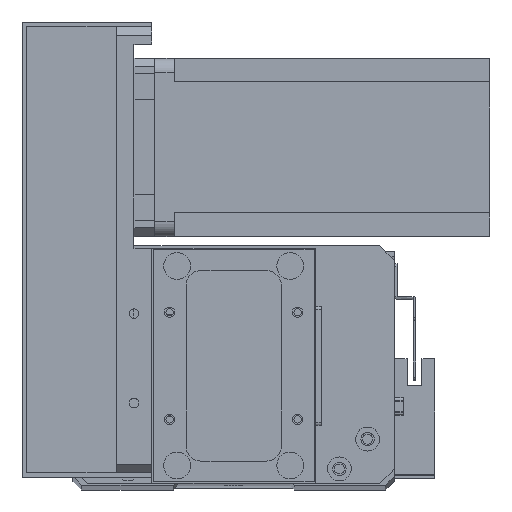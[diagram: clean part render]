
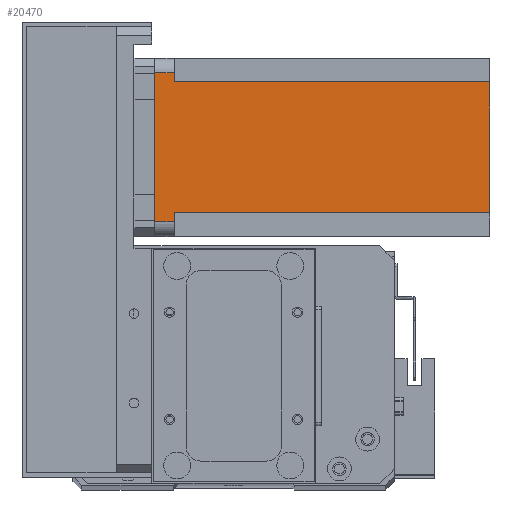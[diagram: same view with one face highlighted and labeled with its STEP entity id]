
A CAD part, top view. The second image highlights one B-rep face of the part: STEP entity #20470.
In plain terms, the highlighted planar face has unit normal (0, 0, 1) as drawn and (0, -1, 0) by its records, which use the part's own axes.
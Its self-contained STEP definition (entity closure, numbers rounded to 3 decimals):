
#39 = DIRECTION ( 'NONE',  ( 1., 0., 0. ) ) ;
#118 = CARTESIAN_POINT ( 'NONE',  ( 55., 0., -112.5 ) ) ;
#567 = CARTESIAN_POINT ( 'NONE',  ( 52., 0., -6.5 ) ) ;
#747 = ORIENTED_EDGE ( 'NONE', *, *, #26672, .T. ) ;
#1100 = ORIENTED_EDGE ( 'NONE', *, *, #27518, .T. ) ;
#1341 = DIRECTION ( 'NONE',  ( 0., -1., 0. ) ) ;
#1445 = DIRECTION ( 'NONE',  ( 0., 0., -1. ) ) ;
#2717 = LINE ( 'NONE', #6301, #19571 ) ;
#3070 = VECTOR ( 'NONE', #39, 1000. ) ;
#3404 = VECTOR ( 'NONE', #28408, 1000. ) ;
#4921 = ORIENTED_EDGE ( 'NONE', *, *, #27119, .F. ) ;
#5174 = ORIENTED_EDGE ( 'NONE', *, *, #25999, .T. ) ;
#5253 = LINE ( 'NONE', #13792, #28242 ) ;
#5990 = LINE ( 'NONE', #10662, #18184 ) ;
#6134 = DIRECTION ( 'NONE',  ( 0., 0., -1. ) ) ;
#6301 = CARTESIAN_POINT ( 'NONE',  ( 5., 0., -112.5 ) ) ;
#6789 = VERTEX_POINT ( 'NONE', #14095 ) ;
#7649 = DIRECTION ( 'NONE',  ( 1., 0., 0. ) ) ;
#8401 = VECTOR ( 'NONE', #10183, 1000. ) ;
#9158 = CARTESIAN_POINT ( 'NONE',  ( 52., 0., -6.5 ) ) ;
#9264 = LINE ( 'NONE', #23035, #3070 ) ;
#9975 = VERTEX_POINT ( 'NONE', #10482 ) ;
#10183 = DIRECTION ( 'NONE',  ( 1., 0., 0. ) ) ;
#10315 = ORIENTED_EDGE ( 'NONE', *, *, #16404, .F. ) ;
#10482 = CARTESIAN_POINT ( 'NONE',  ( 8., 0., -112.5 ) ) ;
#10662 = CARTESIAN_POINT ( 'NONE',  ( 52., 0., -112.5 ) ) ;
#11472 = LINE ( 'NONE', #118, #29034 ) ;
#12391 = CARTESIAN_POINT ( 'NONE',  ( 8., 0., -6.5 ) ) ;
#13792 = CARTESIAN_POINT ( 'NONE',  ( 8., 0., -112.5 ) ) ;
#13801 = ORIENTED_EDGE ( 'NONE', *, *, #27817, .F. ) ;
#14095 = CARTESIAN_POINT ( 'NONE',  ( 8., 0., -6.5 ) ) ;
#15186 = LINE ( 'NONE', #23884, #8401 ) ;
#15208 = CARTESIAN_POINT ( 'NONE',  ( 0., 0., -112.5 ) ) ;
#15235 = EDGE_LOOP ( 'NONE', ( #5174, #21633, #10315, #747, #4921, #17682, #1100, #13801 ) ) ;
#15354 = FACE_OUTER_BOUND ( 'NONE', #15235, .T. ) ;
#15968 = CARTESIAN_POINT ( 'NONE',  ( 5., 0., -6.5 ) ) ;
#16146 = LINE ( 'NONE', #567, #21410 ) ;
#16404 = EDGE_CURVE ( 'NONE', #19517, #20342, #15186, .T. ) ;
#17100 = LINE ( 'NONE', #12391, #3404 ) ;
#17492 = DIRECTION ( 'NONE',  ( 0., 0., -1. ) ) ;
#17682 = ORIENTED_EDGE ( 'NONE', *, *, #27474, .F. ) ;
#17902 = VERTEX_POINT ( 'NONE', #17922 ) ;
#17922 = CARTESIAN_POINT ( 'NONE',  ( 55., 0., -6.5 ) ) ;
#18184 = VECTOR ( 'NONE', #6134, 1000. ) ;
#18355 = DIRECTION ( 'NONE',  ( 0., 0., 1. ) ) ;
#18604 = DIRECTION ( 'NONE',  ( 0., 0., 1. ) ) ;
#19517 = VERTEX_POINT ( 'NONE', #20766 ) ;
#19571 = VECTOR ( 'NONE', #1445, 1000. ) ;
#20336 = CARTESIAN_POINT ( 'NONE',  ( 52., 0., -112.5 ) ) ;
#20342 = VERTEX_POINT ( 'NONE', #23985 ) ;
#20470 = ADVANCED_FACE ( 'NONE', ( #15354 ), #28847, .T. ) ;
#20766 = CARTESIAN_POINT ( 'NONE',  ( 5., 0., 0. ) ) ;
#21410 = VECTOR ( 'NONE', #7649, 1000. ) ;
#21633 = ORIENTED_EDGE ( 'NONE', *, *, #26358, .T. ) ;
#23035 = CARTESIAN_POINT ( 'NONE',  ( 0., 0., -112.5 ) ) ;
#23884 = CARTESIAN_POINT ( 'NONE',  ( 0., 0., 0. ) ) ;
#23904 = VERTEX_POINT ( 'NONE', #9158 ) ;
#23985 = CARTESIAN_POINT ( 'NONE',  ( 55., 0., 0. ) ) ;
#25999 = EDGE_CURVE ( 'NONE', #23904, #17902, #16146, .T. ) ;
#26358 = EDGE_CURVE ( 'NONE', #17902, #20342, #11472, .T. ) ;
#26672 = EDGE_CURVE ( 'NONE', #19517, #27903, #2717, .T. ) ;
#27119 = EDGE_CURVE ( 'NONE', #6789, #27903, #17100, .T. ) ;
#27474 = EDGE_CURVE ( 'NONE', #9975, #6789, #5253, .T. ) ;
#27518 = EDGE_CURVE ( 'NONE', #9975, #28306, #9264, .T. ) ;
#27817 = EDGE_CURVE ( 'NONE', #23904, #28306, #5990, .T. ) ;
#27903 = VERTEX_POINT ( 'NONE', #15968 ) ;
#28242 = VECTOR ( 'NONE', #18355, 1000. ) ;
#28306 = VERTEX_POINT ( 'NONE', #20336 ) ;
#28408 = DIRECTION ( 'NONE',  ( -1., 0., 0. ) ) ;
#28847 = PLANE ( 'NONE',  #29110 ) ;
#29034 = VECTOR ( 'NONE', #18604, 1000. ) ;
#29110 = AXIS2_PLACEMENT_3D ( 'NONE', #15208, #1341, #17492 ) ;
